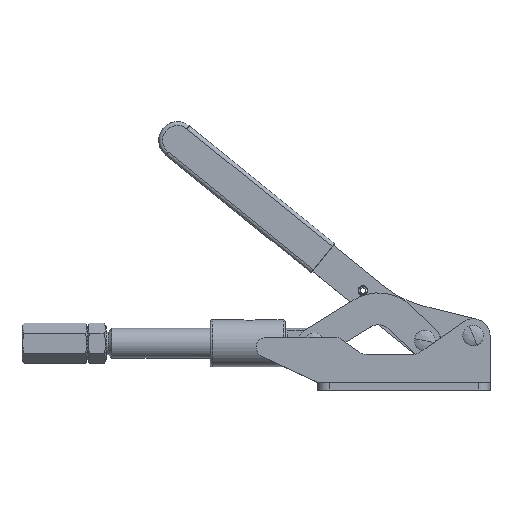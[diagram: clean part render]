
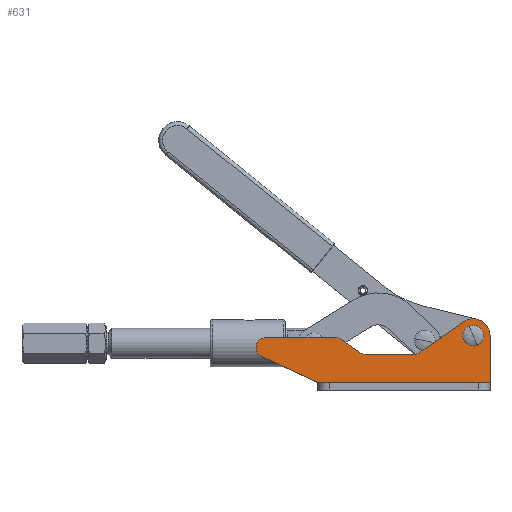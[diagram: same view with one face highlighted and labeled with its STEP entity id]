
A CAD part, top view. The second image highlights one B-rep face of the part: STEP entity #631.
In plain terms, the highlighted planar face has unit normal (0, 0, 1).
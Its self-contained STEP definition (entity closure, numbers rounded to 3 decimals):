
#59 = VERTEX_POINT ( 'NONE', #6215 ) ;
#71 = LINE ( 'NONE', #1239, #1624 ) ;
#141 = VERTEX_POINT ( 'NONE', #4382 ) ;
#312 = ORIENTED_EDGE ( 'NONE', *, *, #7025, .T. ) ;
#387 = DIRECTION ( 'NONE',  ( -1., 0., 0. ) ) ;
#418 = VECTOR ( 'NONE', #1633, 1000. ) ;
#551 = DIRECTION ( 'NONE',  ( 1., 0., 0. ) ) ;
#631 = ADVANCED_FACE ( 'NONE', ( #6268, #3545 ), #4866, .F. ) ;
#750 = DIRECTION ( 'NONE',  ( -1., 0., 0. ) ) ;
#762 = ORIENTED_EDGE ( 'NONE', *, *, #1317, .T. ) ;
#800 = EDGE_CURVE ( 'NONE', #1709, #5881, #3810, .T. ) ;
#868 = ORIENTED_EDGE ( 'NONE', *, *, #3553, .T. ) ;
#962 = CARTESIAN_POINT ( 'NONE',  ( -82.745, 24., 0. ) ) ;
#1028 = ORIENTED_EDGE ( 'NONE', *, *, #3212, .T. ) ;
#1057 = AXIS2_PLACEMENT_3D ( 'NONE', #2559, #1729, #1166 ) ;
#1092 = VECTOR ( 'NONE', #2761, 1000. ) ;
#1166 = DIRECTION ( 'NONE',  ( 1., 0., 0. ) ) ;
#1239 = CARTESIAN_POINT ( 'NONE',  ( -79.304, 22.915, 0. ) ) ;
#1317 = EDGE_CURVE ( 'NONE', #2172, #7703, #71, .T. ) ;
#1387 = EDGE_CURVE ( 'NONE', #6918, #59, #2669, .T. ) ;
#1421 = EDGE_CURVE ( 'NONE', #6882, #141, #4095, .T. ) ;
#1427 = CARTESIAN_POINT ( 'NONE',  ( -79.304, 22.915, 0. ) ) ;
#1543 = ORIENTED_EDGE ( 'NONE', *, *, #5385, .T. ) ;
#1590 = CARTESIAN_POINT ( 'NONE',  ( -37.423, 16.085, 0. ) ) ;
#1609 = LINE ( 'NONE', #4238, #7592 ) ;
#1624 = VECTOR ( 'NONE', #4592, 1000. ) ;
#1633 = DIRECTION ( 'NONE',  ( -0.819, -0.574, 0. ) ) ;
#1669 = ORIENTED_EDGE ( 'NONE', *, *, #7339, .T. ) ;
#1709 = VERTEX_POINT ( 'NONE', #3937 ) ;
#1728 = DIRECTION ( 'NONE',  ( 0., 0., -1. ) ) ;
#1729 = DIRECTION ( 'NONE',  ( 0., 0., 1. ) ) ;
#1859 = ORIENTED_EDGE ( 'NONE', *, *, #1421, .F. ) ;
#1896 = VECTOR ( 'NONE', #551, 1000. ) ;
#2035 = ORIENTED_EDGE ( 'NONE', *, *, #4605, .T. ) ;
#2090 = DIRECTION ( 'NONE',  ( 0., 0., -1. ) ) ;
#2146 = CIRCLE ( 'NONE', #3260, 6. ) ;
#2172 = VERTEX_POINT ( 'NONE', #7952 ) ;
#2234 = EDGE_CURVE ( 'NONE', #3262, #5265, #5970, .T. ) ;
#2255 = DIRECTION ( 'NONE',  ( 0., 0., -1. ) ) ;
#2375 = EDGE_CURVE ( 'NONE', #141, #6882, #4815, .T. ) ;
#2442 = ORIENTED_EDGE ( 'NONE', *, *, #5432, .T. ) ;
#2494 = DIRECTION ( 'NONE',  ( 0., 0., 1. ) ) ;
#2556 = DIRECTION ( 'NONE',  ( 1., 0., 0. ) ) ;
#2559 = CARTESIAN_POINT ( 'NONE',  ( -119.739, 18.739, 0. ) ) ;
#2582 = EDGE_CURVE ( 'NONE', #59, #4035, #6808, .T. ) ;
#2669 = LINE ( 'NONE', #5288, #1896 ) ;
#2761 = DIRECTION ( 'NONE',  ( -1., 0., 0. ) ) ;
#2793 = CARTESIAN_POINT ( 'NONE',  ( -9., 25., 0. ) ) ;
#2924 = LINE ( 'NONE', #4813, #1092 ) ;
#3007 = DIRECTION ( 'NONE',  ( 1., 0., 0. ) ) ;
#3044 = AXIS2_PLACEMENT_3D ( 'NONE', #2793, #8444, #2556 ) ;
#3196 = CARTESIAN_POINT ( 'NONE',  ( -5.4, 25., 0. ) ) ;
#3212 = EDGE_CURVE ( 'NONE', #5265, #8041, #4380, .T. ) ;
#3260 = AXIS2_PLACEMENT_3D ( 'NONE', #4020, #2090, #750 ) ;
#3262 = VERTEX_POINT ( 'NONE', #5832 ) ;
#3362 = CARTESIAN_POINT ( 'NONE',  ( -9., 25., 0. ) ) ;
#3522 = DIRECTION ( 'NONE',  ( 0., 1., 0. ) ) ;
#3545 = FACE_BOUND ( 'NONE', #3972, .T. ) ;
#3553 = EDGE_CURVE ( 'NONE', #8041, #7068, #2924, .T. ) ;
#3567 = CARTESIAN_POINT ( 'NONE',  ( -37.423, 16.085, 0. ) ) ;
#3629 = CARTESIAN_POINT ( 'NONE',  ( -40.864, 15., 0. ) ) ;
#3654 = CARTESIAN_POINT ( 'NONE',  ( -9., 25., 0. ) ) ;
#3740 = DIRECTION ( 'NONE',  ( 1., 0., 0. ) ) ;
#3810 = CIRCLE ( 'NONE', #1057, 5.261 ) ;
#3861 = VECTOR ( 'NONE', #3522, 1000. ) ;
#3937 = CARTESIAN_POINT ( 'NONE',  ( -119.739, 24., 0. ) ) ;
#3972 = EDGE_LOOP ( 'NONE', ( #1859, #6359 ) ) ;
#4020 = CARTESIAN_POINT ( 'NONE',  ( -66.108, 21., 0. ) ) ;
#4035 = VERTEX_POINT ( 'NONE', #6121 ) ;
#4095 = CIRCLE ( 'NONE', #4377, 3.6 ) ;
#4100 = ORIENTED_EDGE ( 'NONE', *, *, #800, .T. ) ;
#4186 = EDGE_LOOP ( 'NONE', ( #8246, #1543, #5154, #1028, #868, #1669, #762, #2442, #2035, #4100, #312, #5180 ) ) ;
#4238 = CARTESIAN_POINT ( 'NONE',  ( -125., 24., 0. ) ) ;
#4377 = AXIS2_PLACEMENT_3D ( 'NONE', #3362, #5332, #4669 ) ;
#4380 = CIRCLE ( 'NONE', #6059, 6. ) ;
#4382 = CARTESIAN_POINT ( 'NONE',  ( -12.6, 25., 0. ) ) ;
#4578 = CARTESIAN_POINT ( 'NONE',  ( -121.963, 13.972, 0. ) ) ;
#4592 = DIRECTION ( 'NONE',  ( -0.819, 0.574, 0. ) ) ;
#4605 = EDGE_CURVE ( 'NONE', #7521, #1709, #1609, .T. ) ;
#4669 = DIRECTION ( 'NONE',  ( 1., 0., 0. ) ) ;
#4813 = CARTESIAN_POINT ( 'NONE',  ( -125., 15., 0. ) ) ;
#4815 = CIRCLE ( 'NONE', #3044, 3.6 ) ;
#4826 = DIRECTION ( 'NONE',  ( -1., 0., 0. ) ) ;
#4866 = PLANE ( 'NONE',  #7002 ) ;
#4942 = CARTESIAN_POINT ( 'NONE',  ( -92., 0., 0. ) ) ;
#5116 = CARTESIAN_POINT ( 'NONE',  ( -82.745, 18., 0. ) ) ;
#5154 = ORIENTED_EDGE ( 'NONE', *, *, #2234, .T. ) ;
#5180 = ORIENTED_EDGE ( 'NONE', *, *, #1387, .T. ) ;
#5265 = VERTEX_POINT ( 'NONE', #3567 ) ;
#5288 = CARTESIAN_POINT ( 'NONE',  ( -125., 0., 0. ) ) ;
#5291 = LINE ( 'NONE', #4942, #7254 ) ;
#5332 = DIRECTION ( 'NONE',  ( 0., 0., 1. ) ) ;
#5385 = EDGE_CURVE ( 'NONE', #4035, #3262, #8307, .T. ) ;
#5432 = EDGE_CURVE ( 'NONE', #7703, #7521, #5438, .T. ) ;
#5438 = CIRCLE ( 'NONE', #6528, 6. ) ;
#5509 = CARTESIAN_POINT ( 'NONE',  ( 0., 0., 0. ) ) ;
#5732 = DIRECTION ( 'NONE',  ( 0., 0., 1. ) ) ;
#5832 = CARTESIAN_POINT ( 'NONE',  ( -14.162, 32.372, 0. ) ) ;
#5881 = VERTEX_POINT ( 'NONE', #4578 ) ;
#5970 = LINE ( 'NONE', #1590, #418 ) ;
#6059 = AXIS2_PLACEMENT_3D ( 'NONE', #7127, #1728, #387 ) ;
#6121 = CARTESIAN_POINT ( 'NONE',  ( 0., 25., 0. ) ) ;
#6215 = CARTESIAN_POINT ( 'NONE',  ( 0., 0., 0. ) ) ;
#6268 = FACE_OUTER_BOUND ( 'NONE', #4186, .T. ) ;
#6359 = ORIENTED_EDGE ( 'NONE', *, *, #2375, .F. ) ;
#6528 = AXIS2_PLACEMENT_3D ( 'NONE', #5116, #5732, #3740 ) ;
#6808 = LINE ( 'NONE', #5509, #3861 ) ;
#6882 = VERTEX_POINT ( 'NONE', #3196 ) ;
#6886 = DIRECTION ( 'NONE',  ( -1., 0., 0. ) ) ;
#6918 = VERTEX_POINT ( 'NONE', #7414 ) ;
#7002 = AXIS2_PLACEMENT_3D ( 'NONE', #8166, #2255, #4826 ) ;
#7025 = EDGE_CURVE ( 'NONE', #5881, #6918, #5291, .T. ) ;
#7068 = VERTEX_POINT ( 'NONE', #7495 ) ;
#7127 = CARTESIAN_POINT ( 'NONE',  ( -40.864, 21., 0. ) ) ;
#7254 = VECTOR ( 'NONE', #7290, 1000. ) ;
#7290 = DIRECTION ( 'NONE',  ( 0.906, -0.423, 0. ) ) ;
#7339 = EDGE_CURVE ( 'NONE', #7068, #2172, #2146, .T. ) ;
#7414 = CARTESIAN_POINT ( 'NONE',  ( -92., 0., 0. ) ) ;
#7495 = CARTESIAN_POINT ( 'NONE',  ( -66.108, 15., 0. ) ) ;
#7521 = VERTEX_POINT ( 'NONE', #962 ) ;
#7592 = VECTOR ( 'NONE', #6886, 1000. ) ;
#7703 = VERTEX_POINT ( 'NONE', #1427 ) ;
#7904 = AXIS2_PLACEMENT_3D ( 'NONE', #3654, #2494, #3007 ) ;
#7952 = CARTESIAN_POINT ( 'NONE',  ( -69.55, 16.085, 0. ) ) ;
#8041 = VERTEX_POINT ( 'NONE', #3629 ) ;
#8166 = CARTESIAN_POINT ( 'NONE',  ( -125., 0., 0. ) ) ;
#8246 = ORIENTED_EDGE ( 'NONE', *, *, #2582, .T. ) ;
#8307 = CIRCLE ( 'NONE', #7904, 9. ) ;
#8444 = DIRECTION ( 'NONE',  ( 0., 0., 1. ) ) ;
